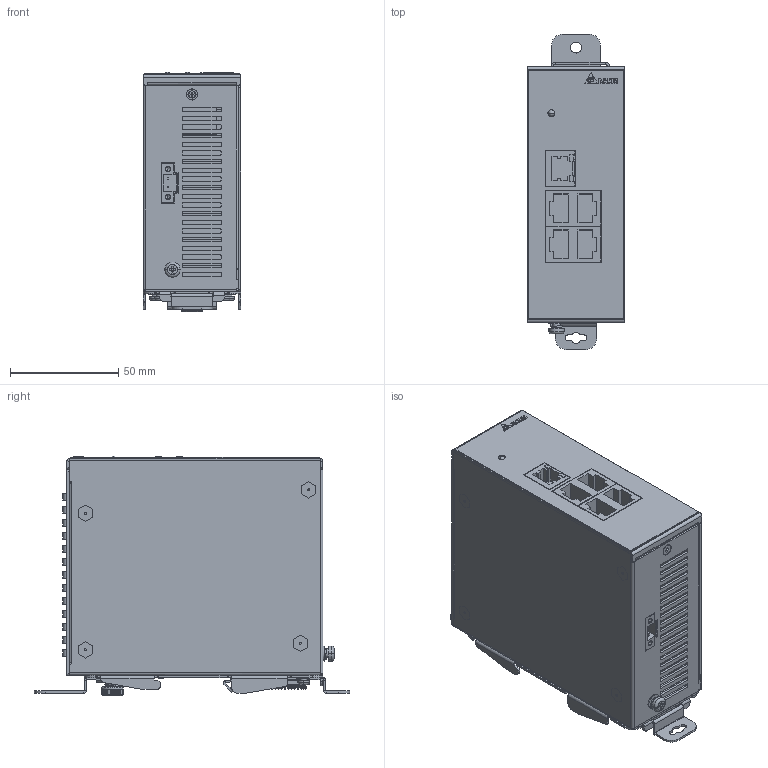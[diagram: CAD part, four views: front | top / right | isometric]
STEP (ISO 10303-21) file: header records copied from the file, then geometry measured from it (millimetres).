
FILE_DESCRIPTION((''),'2;1');
FILE_NAME('DVS-005I00_ASM','2014-12-08T',('ANDREW.AS.SUN'),(''),'PRO/ENGINEER BY PARAMETRIC TECHNOLOGY CORPORATION, 2010280','PRO/ENGINEER BY PARAMETRIC TECHNOLOGY CORPORATION, 2010280','');
FILE_SCHEMA(('CONFIG_CONTROL_DESIGN'));
Products named in the file (23): BASE-8P; COVER-8P; PANEL-8P; PCB-M-8P; TB293; 307229417C; 307228297C-EM50188GF2NN46PF; 1X1_LED; PCB-M-16P_ASM; NAMEPLATE; 3105460500; LOGO-2; STUD_M3_0-S; BACK_PLATE_2; SCREW_M4; SNAP; SPRING; SNAP_2; 46-111-501-1_20100903_; SNAP2_ASM; 3100320300-SCREW; STUD_M3_0; DVS-005I00_ASM
Assembly tree (35 placements, depth 3):
  DVS-005I00_ASM
    BASE-8P
    COVER-8P
    PANEL-8P
    PCB-M-16P_ASM
      PCB-M-8P
      TB293
      307229417C  x2
      307228297C-EM50188GF2NN46PF
      1X1_LED
    NAMEPLATE
    3105460500  x8
    LOGO-2
    STUD_M3_0-S  x2
    BACK_PLATE_2
    SCREW_M4
    SNAP
    SPRING
    SNAP2_ASM
      SNAP_2
      46-111-501-1_20100903_
    3100320300-SCREW  x4
    STUD_M3_0  x2
Bounding box: 45 x 145.3 x 110.6 mm (x, y, z)
Volume: 92632 mm3; surface area: 151485.5 mm2
Topology: 39 solids, 46 shells, 3070 faces, 7793 edges, 4860 vertices
Faces by surface type: plane 1586, cylinder 1046, bspline 233, cone 102, extrusion 53, torus 48, sphere 2
Entity records: 89461 total; most frequent: CARTESIAN_POINT 30813, ORIENTED_EDGE 12201, DIRECTION 11901, EDGE_CURVE 6130, AXIS2_PLACEMENT_3D 4023, VECTOR 3855, VERTEX_POINT 3812, LINE 3802
